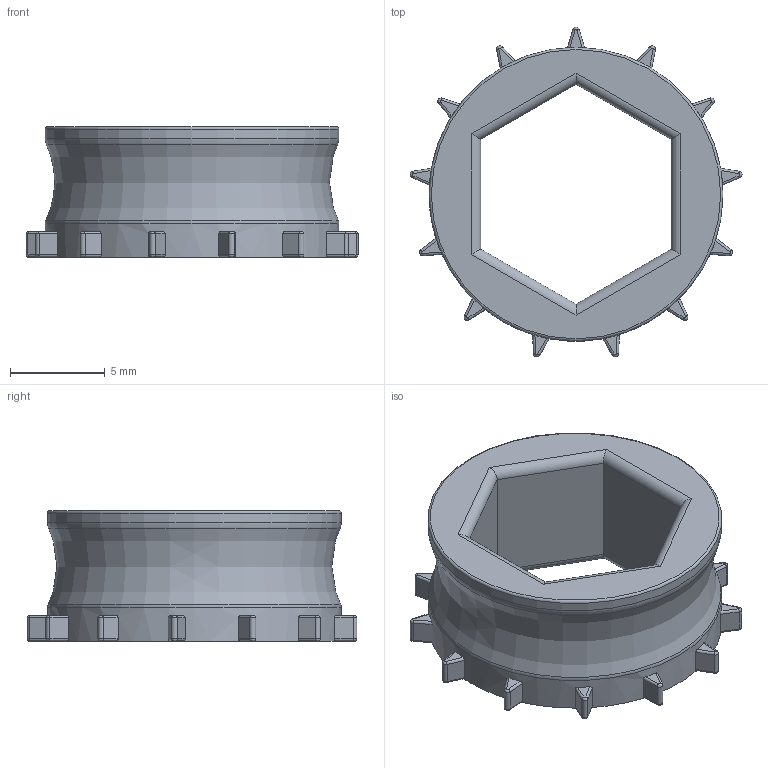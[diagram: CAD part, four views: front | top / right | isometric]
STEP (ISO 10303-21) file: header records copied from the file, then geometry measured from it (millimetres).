
FILE_DESCRIPTION(/* description */ (''),/* implementation_level */ '2;1');
FILE_NAME(/* name */ 'G:\~~Autodesk Inventor File Backup~~\Wolverine Parts by Kamel Ikhlef\My Inventor Drawn Telecine Capstan Parts\Standard 8 Capstan Sprocket Assy\STEP Files\Toothed_Pulley_N8_Capstan_Mine_15.48dia_NO Brass Inserts_1.stp',/* time_stamp */ '2020-02-24T22:50:31+10:00',/* author */ ('bruce'),/* organization */ (''),/* preprocessor_version */ 'ST-DEVELOPER v17.2',/* originating_system */ 'Autodesk Inventor 2019',/* authorisation */ '');
FILE_SCHEMA (('AUTOMOTIVE_DESIGN { 1 0 10303 214 3 1 1 }'));
Length unit declared in the file: millimetre
Products named in the file (1): Toothed_Pulley_N8_Capstan_Mine_15.48dia_NO Brass Inserts_1
Bounding box: 17.49 x 17.37 x 6.88 mm (x, y, z)
Volume: 634.8 mm3; surface area: 796.2 mm2
Topology: 1 solids, 1 shells, 156 faces, 399 edges, 245 vertices
Faces by surface type: cylinder 79, plane 47, bspline 26, torus 4
Full cylindrical faces by diameter (mm): 15.48 x2
Entity records: 5367 total; most frequent: CARTESIAN_POINT 1633, ORIENTED_EDGE 798, DIRECTION 768, EDGE_CURVE 399, AXIS2_PLACEMENT_3D 290, VERTEX_POINT 245, LINE 188, VECTOR 188
